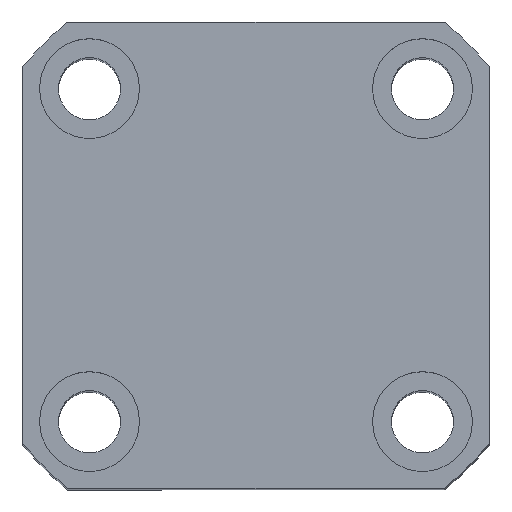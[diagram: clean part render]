
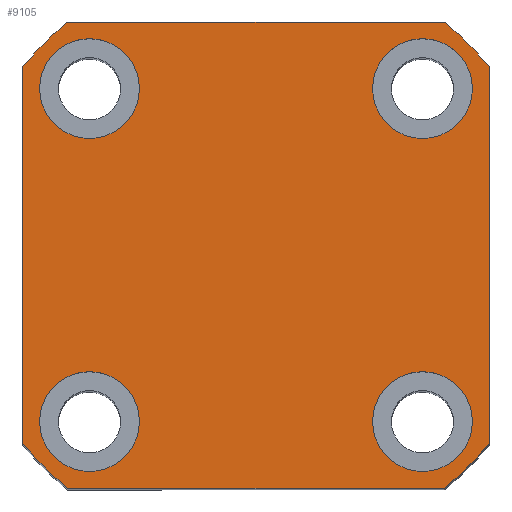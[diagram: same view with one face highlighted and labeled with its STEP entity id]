
A CAD part, top view. The second image highlights one B-rep face of the part: STEP entity #9105.
In plain terms, the highlighted planar face has unit normal (0, 0, 1).
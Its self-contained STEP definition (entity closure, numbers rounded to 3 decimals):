
#13 = DIRECTION ( 'NONE',  ( 1., 0., 0. ) ) ;
#56 = EDGE_CURVE ( 'NONE', #1943, #7581, #11845, .T. ) ;
#118 = CARTESIAN_POINT ( 'NONE',  ( 0., 0., 93. ) ) ;
#147 = ORIENTED_EDGE ( 'NONE', *, *, #6001, .T. ) ;
#192 = VERTEX_POINT ( 'NONE', #8307 ) ;
#241 = EDGE_CURVE ( 'NONE', #13228, #1151, #5752, .T. ) ;
#523 = CARTESIAN_POINT ( 'NONE',  ( 15., 15., 93. ) ) ;
#572 = EDGE_CURVE ( 'NONE', #1151, #13228, #1261, .T. ) ;
#677 = CIRCLE ( 'NONE', #13379, 27. ) ;
#893 = CARTESIAN_POINT ( 'NONE',  ( 21., -16.971, 93. ) ) ;
#948 = CARTESIAN_POINT ( 'NONE',  ( 15., 15., 93. ) ) ;
#1151 = VERTEX_POINT ( 'NONE', #10117 ) ;
#1171 = AXIS2_PLACEMENT_3D ( 'NONE', #948, #8390, #2012 ) ;
#1177 = DIRECTION ( 'NONE',  ( 1., 0., 0. ) ) ;
#1261 = CIRCLE ( 'NONE', #9544, 4.5 ) ;
#1375 = CIRCLE ( 'NONE', #3281, 4.5 ) ;
#1384 = EDGE_CURVE ( 'NONE', #192, #4449, #5735, .T. ) ;
#1488 = CARTESIAN_POINT ( 'NONE',  ( 0., 0., 93. ) ) ;
#1521 = FACE_OUTER_BOUND ( 'NONE', #7006, .T. ) ;
#1532 = CIRCLE ( 'NONE', #6579, 27. ) ;
#1572 = DIRECTION ( 'NONE',  ( 1., 0., 0. ) ) ;
#1796 = ORIENTED_EDGE ( 'NONE', *, *, #2710, .F. ) ;
#1846 = FACE_BOUND ( 'NONE', #7881, .T. ) ;
#1857 = CARTESIAN_POINT ( 'NONE',  ( -21., 21., 93. ) ) ;
#1867 = CARTESIAN_POINT ( 'NONE',  ( 21., 21., 93. ) ) ;
#1893 = DIRECTION ( 'NONE',  ( -1., 0., 0. ) ) ;
#1932 = VECTOR ( 'NONE', #10456, 1000. ) ;
#1943 = VERTEX_POINT ( 'NONE', #2390 ) ;
#1972 = DIRECTION ( 'NONE',  ( 0., 0., 1. ) ) ;
#2001 = VERTEX_POINT ( 'NONE', #12438 ) ;
#2012 = DIRECTION ( 'NONE',  ( 1., 0., 0. ) ) ;
#2330 = VECTOR ( 'NONE', #2797, 1000. ) ;
#2390 = CARTESIAN_POINT ( 'NONE',  ( 16.971, 21., 93. ) ) ;
#2710 = EDGE_CURVE ( 'NONE', #11186, #7705, #8572, .T. ) ;
#2716 = DIRECTION ( 'NONE',  ( 0., 0., 1. ) ) ;
#2764 = VERTEX_POINT ( 'NONE', #893 ) ;
#2797 = DIRECTION ( 'NONE',  ( 1., 0., 0. ) ) ;
#2799 = ORIENTED_EDGE ( 'NONE', *, *, #1384, .F. ) ;
#2893 = CIRCLE ( 'NONE', #13082, 4.5 ) ;
#2981 = EDGE_CURVE ( 'NONE', #12380, #2764, #10810, .T. ) ;
#3024 = CARTESIAN_POINT ( 'NONE',  ( -10.5, -14.998, 93. ) ) ;
#3281 = AXIS2_PLACEMENT_3D ( 'NONE', #8348, #1972, #9458 ) ;
#3607 = VECTOR ( 'NONE', #1893, 1000. ) ;
#3783 = CIRCLE ( 'NONE', #1171, 4.5 ) ;
#3877 = DIRECTION ( 'NONE',  ( 0., 0., 1. ) ) ;
#3897 = CARTESIAN_POINT ( 'NONE',  ( 15., -14.998, 93. ) ) ;
#4067 = VERTEX_POINT ( 'NONE', #13524 ) ;
#4115 = DIRECTION ( 'NONE',  ( 1., 0., 0. ) ) ;
#4135 = EDGE_CURVE ( 'NONE', #4449, #192, #2893, .T. ) ;
#4359 = FACE_BOUND ( 'NONE', #9538, .T. ) ;
#4403 = EDGE_CURVE ( 'NONE', #7620, #4480, #11654, .T. ) ;
#4449 = VERTEX_POINT ( 'NONE', #10985 ) ;
#4480 = VERTEX_POINT ( 'NONE', #4524 ) ;
#4524 = CARTESIAN_POINT ( 'NONE',  ( -16.971, -21., 93. ) ) ;
#4556 = VECTOR ( 'NONE', #13876, 1000. ) ;
#4693 = DIRECTION ( 'NONE',  ( 0., 0., 1. ) ) ;
#4843 = CARTESIAN_POINT ( 'NONE',  ( 16.971, -21., 93. ) ) ;
#5106 = LINE ( 'NONE', #1867, #1932 ) ;
#5180 = CARTESIAN_POINT ( 'NONE',  ( 19.5, 15., 93. ) ) ;
#5352 = ORIENTED_EDGE ( 'NONE', *, *, #9824, .F. ) ;
#5497 = DIRECTION ( 'NONE',  ( 0., 0., 1. ) ) ;
#5601 = CARTESIAN_POINT ( 'NONE',  ( -19.5, -14.998, 93. ) ) ;
#5659 = AXIS2_PLACEMENT_3D ( 'NONE', #118, #7542, #1177 ) ;
#5735 = CIRCLE ( 'NONE', #13353, 4.5 ) ;
#5752 = CIRCLE ( 'NONE', #10563, 4.5 ) ;
#6001 = EDGE_CURVE ( 'NONE', #10194, #7620, #10277, .T. ) ;
#6169 = CIRCLE ( 'NONE', #12934, 4.5 ) ;
#6196 = CARTESIAN_POINT ( 'NONE',  ( -15., -14.998, 93. ) ) ;
#6241 = DIRECTION ( 'NONE',  ( 0., 0., 1. ) ) ;
#6351 = DIRECTION ( 'NONE',  ( 0., 0., 1. ) ) ;
#6411 = EDGE_LOOP ( 'NONE', ( #1796, #11753 ) ) ;
#6579 = AXIS2_PLACEMENT_3D ( 'NONE', #9108, #2716, #10213 ) ;
#6664 = ORIENTED_EDGE ( 'NONE', *, *, #11617, .F. ) ;
#7006 = EDGE_LOOP ( 'NONE', ( #12386, #10178, #8671, #7469, #147, #13346, #12037, #10516 ) ) ;
#7172 = FACE_BOUND ( 'NONE', #7897, .T. ) ;
#7194 = AXIS2_PLACEMENT_3D ( 'NONE', #1488, #4693, #12244 ) ;
#7256 = DIRECTION ( 'NONE',  ( 1., 0., 0. ) ) ;
#7340 = EDGE_CURVE ( 'NONE', #7705, #11186, #1375, .T. ) ;
#7404 = VERTEX_POINT ( 'NONE', #5180 ) ;
#7469 = ORIENTED_EDGE ( 'NONE', *, *, #7959, .T. ) ;
#7503 = CARTESIAN_POINT ( 'NONE',  ( -16.971, 21., 93. ) ) ;
#7542 = DIRECTION ( 'NONE',  ( 0., 0., 1. ) ) ;
#7581 = VERTEX_POINT ( 'NONE', #7503 ) ;
#7620 = VERTEX_POINT ( 'NONE', #9705 ) ;
#7656 = LINE ( 'NONE', #9186, #2330 ) ;
#7698 = CARTESIAN_POINT ( 'NONE',  ( -21., 16.971, 93. ) ) ;
#7705 = VERTEX_POINT ( 'NONE', #5601 ) ;
#7881 = EDGE_LOOP ( 'NONE', ( #13215, #2799 ) ) ;
#7897 = EDGE_LOOP ( 'NONE', ( #11948, #9808 ) ) ;
#7948 = DIRECTION ( 'NONE',  ( 0., 0., 1. ) ) ;
#7959 = EDGE_CURVE ( 'NONE', #7581, #10194, #1532, .T. ) ;
#8263 = DIRECTION ( 'NONE',  ( 1., 0., 0. ) ) ;
#8307 = CARTESIAN_POINT ( 'NONE',  ( -19.5, 15.002, 93. ) ) ;
#8348 = CARTESIAN_POINT ( 'NONE',  ( -15., -14.998, 93. ) ) ;
#8390 = DIRECTION ( 'NONE',  ( 0., 0., 1. ) ) ;
#8401 = CARTESIAN_POINT ( 'NONE',  ( 15., -14.998, 93. ) ) ;
#8435 = DIRECTION ( 'NONE',  ( 0., 0., 1. ) ) ;
#8572 = CIRCLE ( 'NONE', #11014, 4.5 ) ;
#8671 = ORIENTED_EDGE ( 'NONE', *, *, #56, .T. ) ;
#8900 = CARTESIAN_POINT ( 'NONE',  ( 10.5, -14.998, 93. ) ) ;
#9105 = ADVANCED_FACE ( 'NONE', ( #1846, #12945, #7172, #4359, #1521 ), #11167, .T. ) ;
#9108 = CARTESIAN_POINT ( 'NONE',  ( 0., 0., 93. ) ) ;
#9186 = CARTESIAN_POINT ( 'NONE',  ( -21., -21., 93. ) ) ;
#9458 = DIRECTION ( 'NONE',  ( 1., 0., 0. ) ) ;
#9538 = EDGE_LOOP ( 'NONE', ( #6664, #5352 ) ) ;
#9544 = AXIS2_PLACEMENT_3D ( 'NONE', #3897, #3877, #4115 ) ;
#9705 = CARTESIAN_POINT ( 'NONE',  ( -21., -16.971, 93. ) ) ;
#9808 = ORIENTED_EDGE ( 'NONE', *, *, #241, .F. ) ;
#9824 = EDGE_CURVE ( 'NONE', #4067, #7404, #6169, .T. ) ;
#9909 = AXIS2_PLACEMENT_3D ( 'NONE', #11964, #5497, #13053 ) ;
#10117 = CARTESIAN_POINT ( 'NONE',  ( 19.5, -14.998, 93. ) ) ;
#10164 = EDGE_CURVE ( 'NONE', #2001, #1943, #677, .T. ) ;
#10178 = ORIENTED_EDGE ( 'NONE', *, *, #10164, .T. ) ;
#10194 = VERTEX_POINT ( 'NONE', #7698 ) ;
#10213 = DIRECTION ( 'NONE',  ( 1., 0., 0. ) ) ;
#10277 = LINE ( 'NONE', #11580, #4556 ) ;
#10456 = DIRECTION ( 'NONE',  ( 0., 1., 0. ) ) ;
#10516 = ORIENTED_EDGE ( 'NONE', *, *, #2981, .T. ) ;
#10563 = AXIS2_PLACEMENT_3D ( 'NONE', #8401, #8435, #8263 ) ;
#10626 = EDGE_CURVE ( 'NONE', #4480, #12380, #7656, .T. ) ;
#10810 = CIRCLE ( 'NONE', #5659, 27. ) ;
#10985 = CARTESIAN_POINT ( 'NONE',  ( -10.5, 15.002, 93. ) ) ;
#11014 = AXIS2_PLACEMENT_3D ( 'NONE', #6196, #13751, #7256 ) ;
#11167 = PLANE ( 'NONE',  #7194 ) ;
#11186 = VERTEX_POINT ( 'NONE', #3024 ) ;
#11537 = EDGE_CURVE ( 'NONE', #2764, #2001, #5106, .T. ) ;
#11580 = CARTESIAN_POINT ( 'NONE',  ( -21., 21., 93. ) ) ;
#11617 = EDGE_CURVE ( 'NONE', #7404, #4067, #3783, .T. ) ;
#11654 = CIRCLE ( 'NONE', #9909, 27. ) ;
#11753 = ORIENTED_EDGE ( 'NONE', *, *, #7340, .F. ) ;
#11845 = LINE ( 'NONE', #1857, #3607 ) ;
#11948 = ORIENTED_EDGE ( 'NONE', *, *, #572, .F. ) ;
#11964 = CARTESIAN_POINT ( 'NONE',  ( 0., 0., 93. ) ) ;
#12037 = ORIENTED_EDGE ( 'NONE', *, *, #10626, .T. ) ;
#12244 = DIRECTION ( 'NONE',  ( 1., 0., 0. ) ) ;
#12380 = VERTEX_POINT ( 'NONE', #4843 ) ;
#12386 = ORIENTED_EDGE ( 'NONE', *, *, #11537, .T. ) ;
#12438 = CARTESIAN_POINT ( 'NONE',  ( 21., 16.971, 93. ) ) ;
#12599 = CARTESIAN_POINT ( 'NONE',  ( -15., 15.002, 93. ) ) ;
#12627 = DIRECTION ( 'NONE',  ( 0., 0., 1. ) ) ;
#12642 = DIRECTION ( 'NONE',  ( 1., 0., 0. ) ) ;
#12732 = CARTESIAN_POINT ( 'NONE',  ( -15., 15.002, 93. ) ) ;
#12834 = CARTESIAN_POINT ( 'NONE',  ( 0., 0., 93. ) ) ;
#12934 = AXIS2_PLACEMENT_3D ( 'NONE', #523, #7948, #1572 ) ;
#12945 = FACE_BOUND ( 'NONE', #6411, .T. ) ;
#13053 = DIRECTION ( 'NONE',  ( 1., 0., 0. ) ) ;
#13082 = AXIS2_PLACEMENT_3D ( 'NONE', #12732, #6241, #13800 ) ;
#13215 = ORIENTED_EDGE ( 'NONE', *, *, #4135, .F. ) ;
#13228 = VERTEX_POINT ( 'NONE', #8900 ) ;
#13346 = ORIENTED_EDGE ( 'NONE', *, *, #4403, .T. ) ;
#13353 = AXIS2_PLACEMENT_3D ( 'NONE', #12599, #12627, #12642 ) ;
#13379 = AXIS2_PLACEMENT_3D ( 'NONE', #12834, #6351, #13 ) ;
#13524 = CARTESIAN_POINT ( 'NONE',  ( 10.5, 15., 93. ) ) ;
#13751 = DIRECTION ( 'NONE',  ( 0., 0., 1. ) ) ;
#13800 = DIRECTION ( 'NONE',  ( 1., 0., 0. ) ) ;
#13876 = DIRECTION ( 'NONE',  ( 0., -1., 0. ) ) ;
